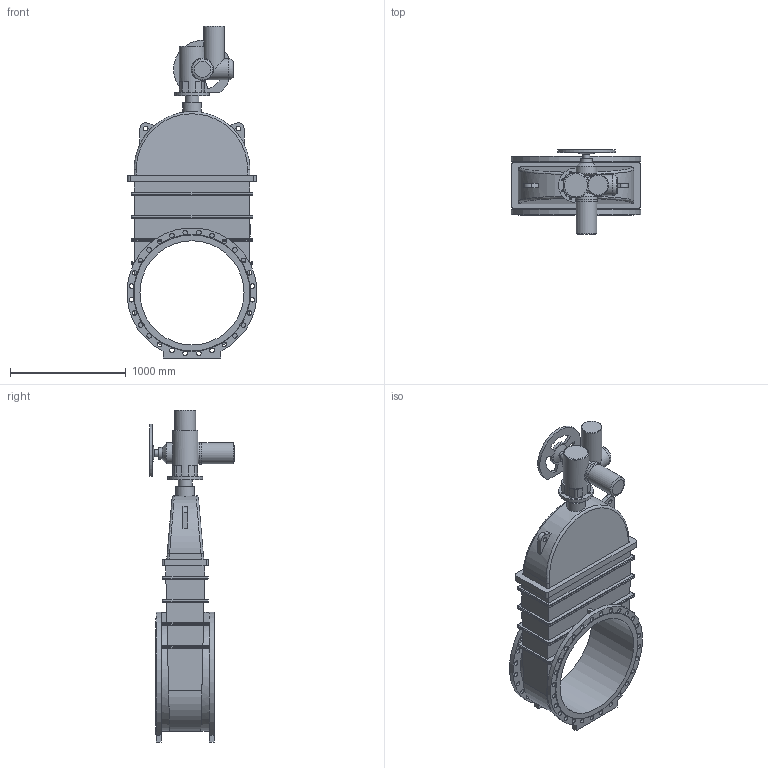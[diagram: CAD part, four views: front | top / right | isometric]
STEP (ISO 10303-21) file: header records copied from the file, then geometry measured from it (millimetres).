
FILE_DESCRIPTION(('STEP AP203'), '1');
FILE_NAME('青溻桄赅 47GVA.Z DN900 PN16 +MT903.A80', '', ('UNSPECIFIED'), ('UNSPECIFIED'), 'ASCON STEP Converter 1.6', 'ASCON Math Kernel', '');
FILE_SCHEMA(('CONFIG_CONTROL_DESIGN'));
Length unit declared in the file: millimetre
Bounding box: 1122.05 x 733 x 2868.5 mm (x, y, z)
Volume: 476616526.5 mm3; surface area: 9919913.4 mm2
Topology: 2 solids, 2 shells, 384 faces, 977 edges, 624 vertices
Faces by surface type: cylinder 187, plane 147, bspline 38, cone 11, torus 1
Full cylindrical faces by diameter (mm): 17.5 x4, 18 x8, 20 x4, 40 x58, 50 x1, 60 x1, 100 x1, 120 x1, 130 x1, 140 x1, 160 x1, 180 x4, 187 x1, 191 x1, 200 x1, 220 x1, 300 x1, 900 x1
Entity records: 19450 total; most frequent: CARTESIAN_POINT 7380, DIRECTION 1761, ORIENTED_EDGE 1748, EDGE_CURVE 874, AXIS2_PLACEMENT_3D 681, EDGE_LOOP 661, VERTEX_POINT 623, FACE_BOUND 467
